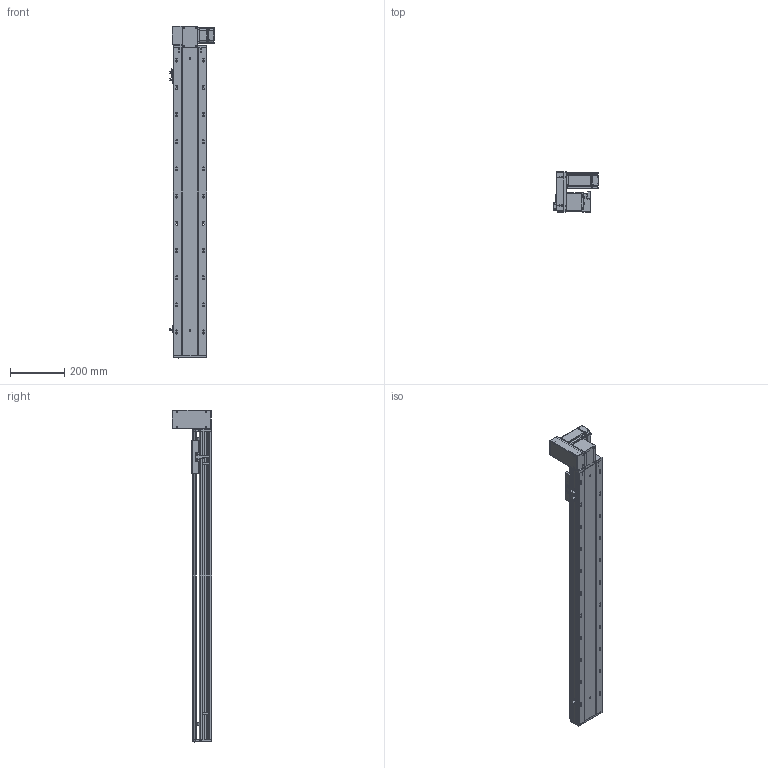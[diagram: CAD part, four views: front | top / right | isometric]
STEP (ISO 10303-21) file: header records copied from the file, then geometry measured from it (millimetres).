
FILE_DESCRIPTION (( 'STEP AP203' ), '1' );
FILE_NAME ('RY120-T-300-UL.SLDASM_900.step', '2021-03-01T05:36:02', ( '盈信电脑' ), ( '东莞市道滘镇水果街19号' ), 'SwSTEP 2.0', 'SolidWorks 2012', '' );
FILE_SCHEMA (( 'CONFIG_CONTROL_DESIGN' ));
Length unit declared in the file: millimetre
Products named in the file (18): RY120-T-300-UL.SLDASM_900; RY120-T蹟翐M4; RY120-T萇儂欶; RY120-T翋肮祭謫裔啣; RY120-T主同步轮轴承压盖; 15; 滅袉蝶18-10; 侂狟400W侜督萇儂; RY120-T萇儂假蚾啣; RY120-T肮祭湍揤踡輸2; RY120-T肮祭湍揤踡輸1; RY120-T翋肮祭盓傅釱; RY120外置感应片(140共用）; RY120綴裔啣; 覜茼ん672; RY120肮祭湍臏賑輸; RY120-T-300-UL倰第奻裔啣_900; RY120-T-300-UL倰第菁釱_900
Assembly tree (23 placements, depth 3):
  RY120-T-300-UL.SLDASM_900
    RY120-T-300-UL倰第菁釱_900
    RY120-T-300-UL倰第奻裔啣_900
    RY120肮祭湍臏賑輸
    RY120綴裔啣
    覜茼ん672  x3
    RY120外置感应片(140共用）
    RY120-T肮祭湍揤踡輸1
    RY120-T肮祭湍揤踡輸2
    RY120-T翋肮祭盓傅釱
    RY120-T萇儂假蚾啣
    侂狟400W侜督萇儂
      15
    RY120-T主同步轮轴承压盖
    滅袉蝶18-10  x2
    RY120-T萇儂欶
    RY120-T蹟翐M4  x4
    RY120-T翋肮祭謫裔啣
Bounding box: 164.2 x 146 x 1221 mm (x, y, z)
Volume: 3391002.2 mm3; surface area: 1265667.4 mm2
Topology: 23 solids, 23 shells, 2972 faces, 8168 edges, 5252 vertices
Faces by surface type: plane 1452, cylinder 1178, cone 253, bspline 89
Entity records: 96634 total; most frequent: CARTESIAN_POINT 25620, ORIENTED_EDGE 14768, DIRECTION 13754, EDGE_CURVE 7384, VERTEX_POINT 4839, AXIS2_PLACEMENT_3D 4633, LINE 4488, VECTOR 4488
